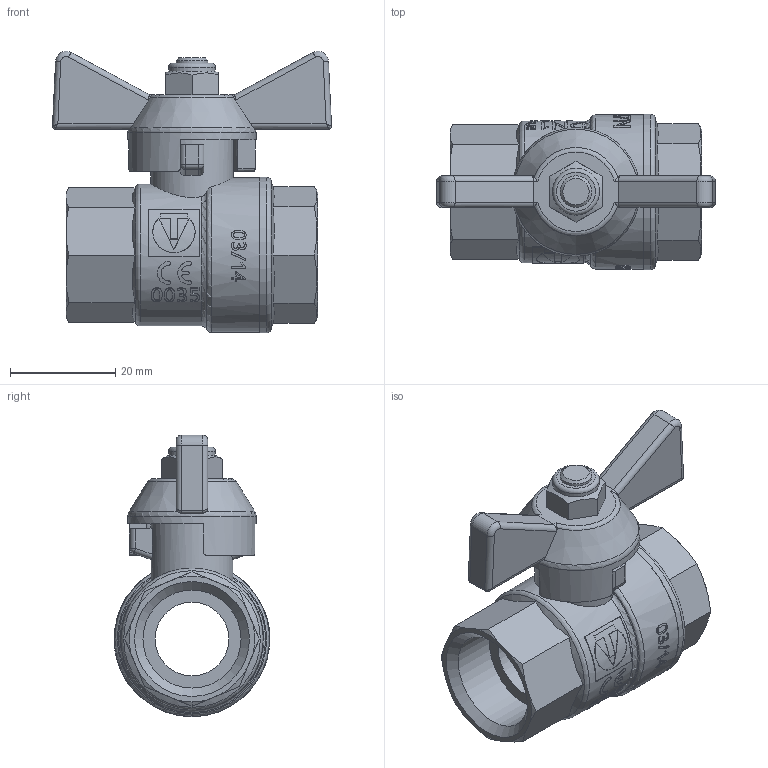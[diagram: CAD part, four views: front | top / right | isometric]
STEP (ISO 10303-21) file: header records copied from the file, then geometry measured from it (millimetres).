
FILE_DESCRIPTION(('TFLEX Exchange Step'),'2;1');
FILE_NAME('Ball valve DN15, 1_2 VT.217.N.04 Valtec.stp', '2023-09-12T15:26:34+03:00',('denis'),('Unknown organisation'),'TFLEX Exchange 2023.0','T-FLEX CAD','Unknown authorisation');
FILE_SCHEMA( ('AUTOMOTIVE_DESIGN { 1 0 10303 214 1 1 1 1 }') );
Length unit declared in the file: millimetre
Products named in the file (1): Nodes
Bounding box: 52.95 x 29.53 x 53.41 mm (x, y, z)
Volume: 24506.2 mm3; surface area: 10953.2 mm2
Topology: 3 solids, 3 shells, 524 faces, 1376 edges, 900 vertices
Faces by surface type: plane 209, bspline 190, cylinder 88, cone 20, torus 13, sphere 4
Full cylindrical faces by diameter (mm): 6 x1, 8.9 x1, 14 x1, 15.729 x1, 18.6 x2, 24.322 x1, 26.933 x1, 29.333 x1, 29.492 x1
Entity records: 23432 total; most frequent: CARTESIAN_POINT 12128, ORIENTED_EDGE 2740, DIRECTION 1650, EDGE_CURVE 1370, VERTEX_POINT 900, B_SPLINE_CURVE_WITH_KNOTS 635, AXIS2_PLACEMENT_3D 612, EDGE_LOOP 574
